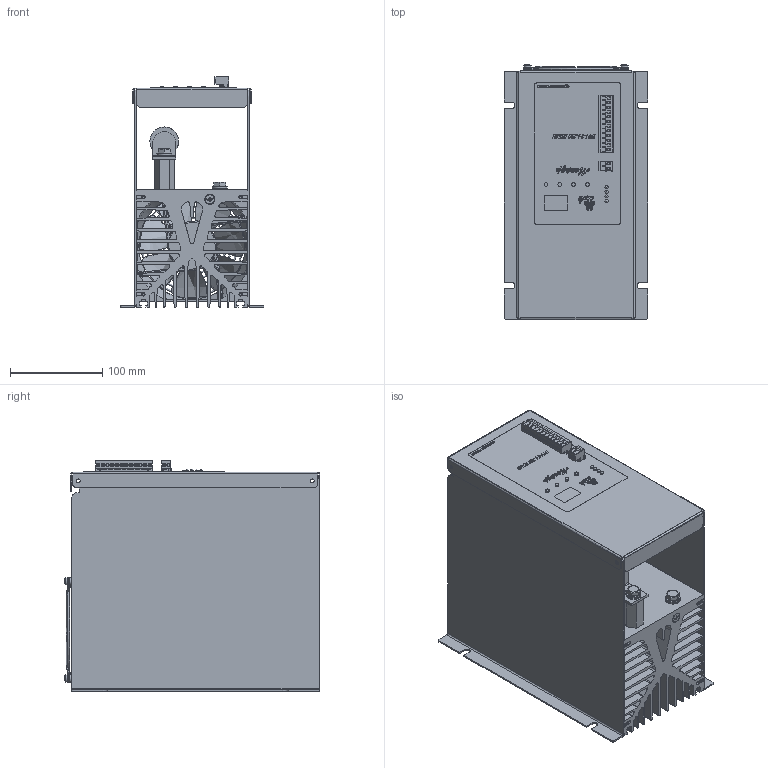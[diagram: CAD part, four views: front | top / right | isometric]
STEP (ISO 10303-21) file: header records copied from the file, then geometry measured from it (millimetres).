
FILE_DESCRIPTION(('STEP AP203'), '1');
FILE_NAME('ﾒﾐﾌ 1ﾌ-230 RS485.m3d', '2025-05-22T06:39:39', (''), ('ﾎﾎﾎ "ﾌﾅﾀﾍﾄﾐ"'), 'C3D Converter', 'C3D Toolkit', '');
FILE_SCHEMA(('CONFIG_CONTROL_DESIGN'));
Length unit declared in the file: millimetre
Products named in the file (4): 1М-; 1М -; МР 83.0608.18 СБ
Assembly tree (6 placements, depth 2):
  (unnamed)
    1М-
    1М -
    МР 83.0608.18 СБ  x4
Bounding box: 155 x 275.91 x 249.4 mm (x, y, z)
Volume: 87978.3 mm3; surface area: 1083637.6 mm2
Topology: 16 solids, 31 shells, 4526 faces, 12890 edges, 8467 vertices
Faces by surface type: plane 2759, extrusion 932, cylinder 653, bspline 88, torus 49, cone 37, sphere 8
Full cylindrical faces by diameter (mm): 1.8 x4, 3 x3, 3.1 x14, 3.3 x8, 3.9 x14, 4 x12, 4.2 x4, 4.3 x1, 4.572 x8, 6.1 x4, 8 x12, 8.4 x4, 9 x4, 10 x1, 11 x1, 11.6 x4, 16 x8, 28.5 x1, 31 x2, 38.1 x1, 115.062 x1, 118.662 x1
Entity records: 195526 total; most frequent: CARTESIAN_POINT 76417, ORIENTED_EDGE 24763, DIRECTION 19290, EDGE_CURVE 12386, VECTOR 9576, LINE 8644, VERTEX_POINT 8221, AXIS2_PLACEMENT_3D 4857
